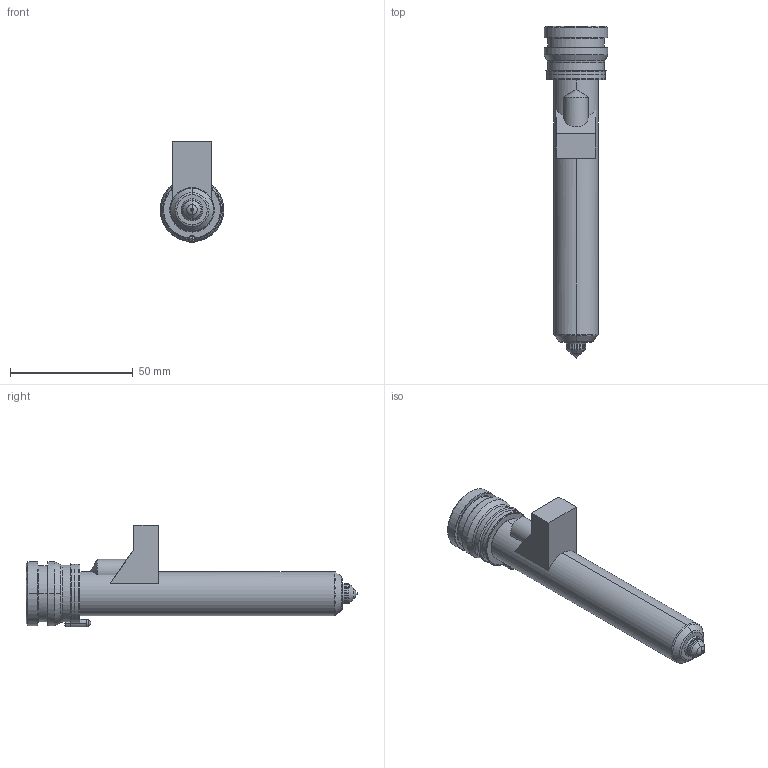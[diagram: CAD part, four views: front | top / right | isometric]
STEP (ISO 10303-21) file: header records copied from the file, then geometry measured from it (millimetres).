
FILE_DESCRIPTION((''),'2;1');
FILE_NAME('MPN-08-24-VX8-116-M','2026-02-05T13:31:13',('UPTIO'),('Thermoplay S.p.A.'),'CREO PARAMETRIC BY PTC INC, 2023494','CREO PARAMETRIC BY PTC INC, 2023494','');
FILE_SCHEMA(('CONFIG_CONTROL_DESIGN','SHAPE_APPEARANCE_LAYERS_GROUPS'));
Length unit declared in the file: millimetre
Products named in the file (1): MPN-08-24-VX8-116-M
Bounding box: 26 x 135.5 x 41.5 mm (x, y, z)
Volume: 26194.4 mm3; surface area: 34621.2 mm2
Topology: 2 solids, 3 shells, 529 faces, 1372 edges, 842 vertices
Faces by surface type: cylinder 174, plane 143, bspline 77, torus 60, cone 60, sphere 9, extrusion 6
Entity records: 27090 total; most frequent: CARTESIAN_POINT 11569, ORIENTED_EDGE 2726, DIRECTION 2495, EDGE_CURVE 1363, AXIS2_PLACEMENT_3D 975, VERTEX_POINT 842, EDGE_LOOP 559, VECTOR 545
